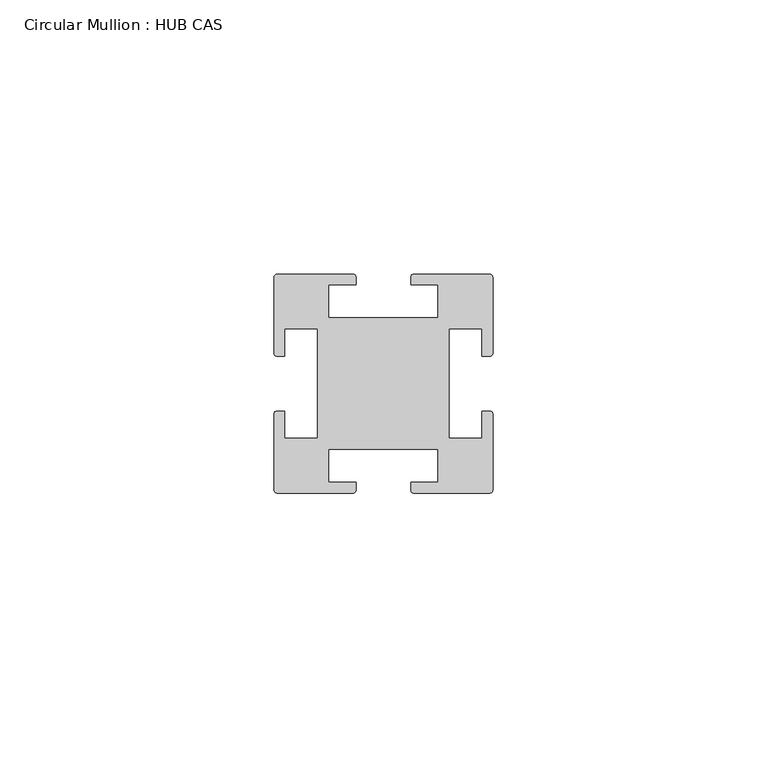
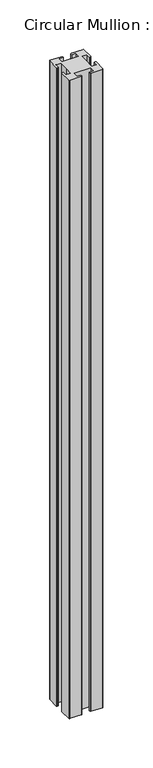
"""IFC4 building model written with IfcOpenShell, lengths in millimetres: member geometry, Circular Mullion : HUB CAS."""

from ifc_helpers import new_model, si_unit, point, frame, frame_2d, origin, place, context, project, spatial, polyline, circle_curve, trimmed, segment, composite_curve, outline, extrude, source, transform, mapped, element, save


def circular_mullion_hub_cas_a10b3b58(model_context):
    return source(origin(), model_context, "Body", "SweptSolid", [
        extrude(outline(composite_curve([segment(polyline([(5.601076, 2.0892375), (19.298924, 2.0892375)]), True, "CONTINUOUS"), segment(trimmed(circle_curve(frame_2d((19.298924, 1.3892375)), 0.7), [point((19.298924, 2.0892375))], [point((19.998924, 1.3892375))], False, "CARTESIAN"), True, "CONTINUOUS"), segment(polyline([(19.998924, 1.3892375), (19.998924, -12.3107625)]), True, "CONTINUOUS"), segment(trimmed(circle_curve(frame_2d((19.398924, -12.3107625)), 0.6), [point((19.998924, -12.3107625))], [point((19.398924, -12.9107625))], False, "CARTESIAN"), True, "CONTINUOUS"), segment(polyline([(19.398924, -12.9107625), (17.998924, -12.9107625), (17.998924, -7.9107625), (11.998924, -7.9107625), (11.998924, -17.9107625), (11.998924, -27.9107625), (17.998924, -27.9107625), (17.998924, -22.9107625), (19.398924, -22.9107625)]), True, "CONTINUOUS"), segment(trimmed(circle_curve(frame_2d((19.398924, -23.5107625)), 0.6), [point((19.398924, -22.9107625))], [point((19.998924, -23.5107625))], False, "CARTESIAN"), True, "CONTINUOUS"), segment(polyline([(19.998924, -23.5107625), (19.998924, -37.2107625)]), True, "CONTINUOUS"), segment(trimmed(circle_curve(frame_2d((19.298924, -37.2107625)), 0.7), [point((19.998924, -37.2107625))], [point((19.298924, -37.9107625))], False, "CARTESIAN"), True, "CONTINUOUS"), segment(polyline([(19.298924, -37.9107625), (5.601076, -37.9107625)]), True, "CONTINUOUS"), segment(trimmed(circle_curve(frame_2d((5.601076, -37.3107625)), 0.6), [point((5.601076, -37.9107625))], [point((5.001076, -37.3107625))], False, "CARTESIAN"), True, "CONTINUOUS"), segment(polyline([(5.001076, -37.3107625), (5.001076, -35.910257), (9.998924, -35.910257), (9.998924, -29.9107625), (-9.998924, -29.9107625), (-9.998924, -35.910257), (-5.001076, -35.910257), (-5.001076, -37.3107625)]), True, "CONTINUOUS"), segment(trimmed(circle_curve(frame_2d((-5.601076, -37.3107625)), 0.6), [point((-5.001076, -37.3107625))], [point((-5.601076, -37.9107625))], False, "CARTESIAN"), True, "CONTINUOUS"), segment(polyline([(-5.601076, -37.9107625), (-19.298924, -37.9107625)]), True, "CONTINUOUS"), segment(trimmed(circle_curve(frame_2d((-19.298924, -37.2107625)), 0.7), [point((-19.298924, -37.9107625))], [point((-19.998924, -37.2107625))], False, "CARTESIAN"), True, "CONTINUOUS"), segment(polyline([(-19.998924, -37.2107625), (-19.998924, -23.5107625)]), True, "CONTINUOUS"), segment(trimmed(circle_curve(frame_2d((-19.398924, -23.5107625)), 0.6), [point((-19.998924, -23.5107625))], [point((-19.398924, -22.9107625))], False, "CARTESIAN"), True, "CONTINUOUS"), segment(polyline([(-19.398924, -22.9107625), (-17.998924, -22.9107625), (-17.998924, -27.9107625), (-11.998924, -27.9107625), (-11.998924, -17.9107625), (-11.998924, -7.9107625), (-17.998924, -7.9107625), (-17.998924, -12.9107625), (-19.398924, -12.9107625)]), True, "CONTINUOUS"), segment(trimmed(circle_curve(frame_2d((-19.398924, -12.3107625)), 0.6), [point((-19.398924, -12.9107625))], [point((-19.998924, -12.3107625))], False, "CARTESIAN"), True, "CONTINUOUS"), segment(polyline([(-19.998924, -12.3107625), (-19.998924, 1.3892375)]), True, "CONTINUOUS"), segment(trimmed(circle_curve(frame_2d((-19.298924, 1.3892375)), 0.7), [point((-19.998924, 1.3892375))], [point((-19.298924, 2.0892375))], False, "CARTESIAN"), True, "CONTINUOUS"), segment(polyline([(-19.298924, 2.0892375), (-5.601076, 2.0892375)]), True, "CONTINUOUS"), segment(trimmed(circle_curve(frame_2d((-5.601076, 1.4892375)), 0.6), [point((-5.601076, 2.0892375))], [point((-5.001076, 1.4892375))], False, "CARTESIAN"), True, "CONTINUOUS"), segment(polyline([(-5.001076, 1.4892375), (-5.001076, 0.0887321), (-9.998924, 0.0887321), (-9.998924, -5.9107625), (9.998924, -5.9107625), (9.998924, 0.0887321), (5.001076, 0.0887321), (5.001076, 1.4892375)]), True, "CONTINUOUS"), segment(trimmed(circle_curve(frame_2d((5.601076, 1.4892375)), 0.6), [point((5.001076, 1.4892375))], [point((5.601076, 2.0892375))], False, "CARTESIAN"), True, "CONTINUOUS")], self_intersect=False)), frame((0.0, 0.0, -790.0), z_axis=(0.0, 0.0, 1.0), x_axis=(1.0, 0.0, 0.0)), (0.0, 0.0, 1.0), 790.0),
    ])


if __name__ == "__main__":
    model = new_model("IFC4")
    model_context = context("Model", 3, world=origin())
    ifc_project = project(units=[si_unit("LENGTHUNIT", "METRE", prefix="MILLI")], contexts=[model_context])
    site = spatial("IfcSite", under=ifc_project)
    building = spatial("IfcBuilding", under=site)
    placement = place(None, origin())
    circular_mullion_hub_cas_shape = circular_mullion_hub_cas_a10b3b58(model_context)
    element("IfcMember", 1, ObjectType="Circular Mullion : HUB CAS", at=placement, inside=building, context=model_context, shape_type="MappedRepresentation", body=[
        mapped(circular_mullion_hub_cas_shape, transform((0.0, 0.0, 0.0), x_axis=(1.0, 0.0, 0.0), y_axis=(0.0, 1.0, 0.0), z_axis=(0.0, 0.0, 1.0))),
    ])
    save(model, "model.ifc")
